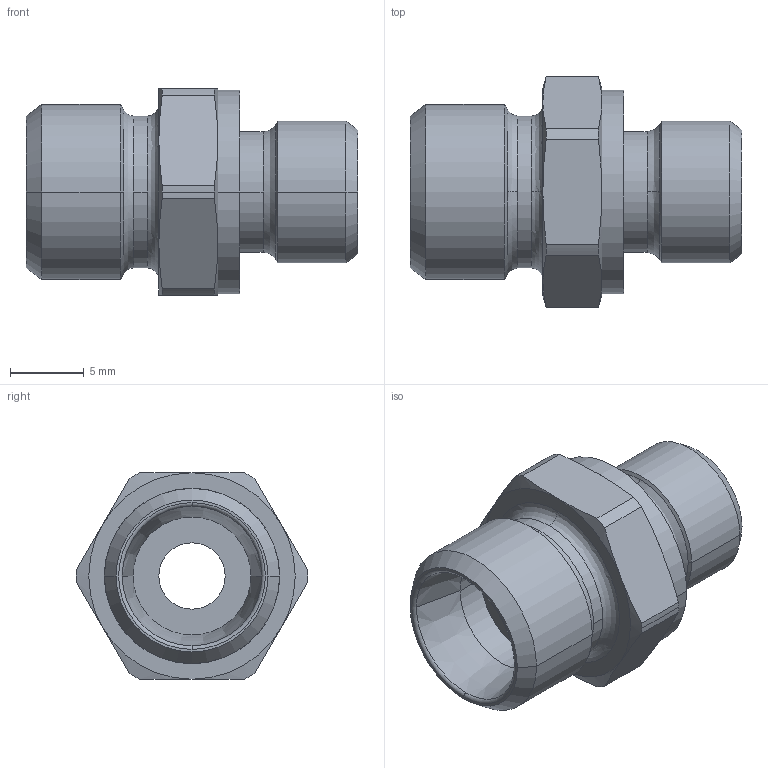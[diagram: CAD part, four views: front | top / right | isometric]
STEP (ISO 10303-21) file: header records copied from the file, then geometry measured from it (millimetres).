
FILE_DESCRIPTION((''),'2;1');
FILE_NAME('100503.stp','2007-10-30T14:18:21',(''),(''),'AutoCAD STEP 2000i','AutoCAD 2000i',', , ');
FILE_SCHEMA(('CONFIG_CONTROL_DESIGN'));
Length unit declared in the file: millimetre
Products named in the file (2): 100503.0; CHIAVE SMUSSATA#0
Assembly tree (1 placements, depth 2):
  100503.0
    CHIAVE SMUSSATA#0
Bounding box: 22.5 x 15.7 x 14 mm (x, y, z)
Volume: 1702.1 mm3; surface area: 1534.6 mm2
Topology: 1 solids, 1 shells, 75 faces, 185 edges, 117 vertices
Faces by surface type: cylinder 24, cone 24, plane 13, bspline 12, torus 2
Entity records: 2835 total; most frequent: CARTESIAN_POINT 955, DIRECTION 410, ORIENTED_EDGE 370, EDGE_CURVE 185, AXIS2_PLACEMENT_3D 184, CIRCLE 119, VERTEX_POINT 117, EDGE_LOOP 82
